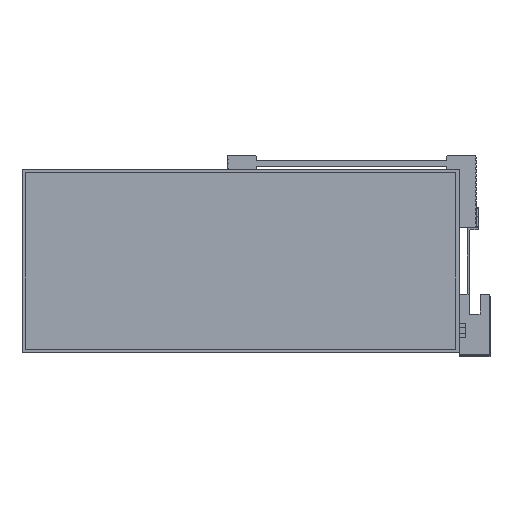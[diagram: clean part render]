
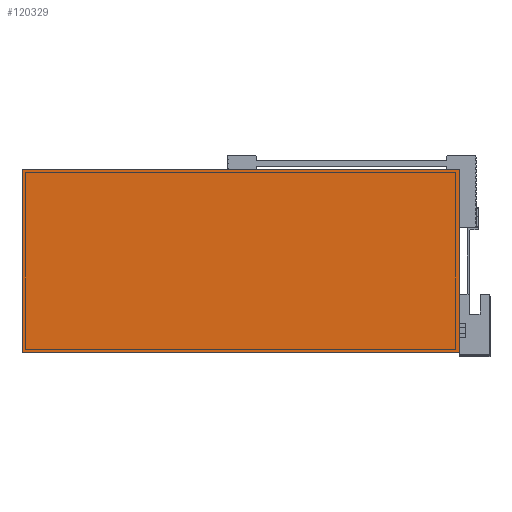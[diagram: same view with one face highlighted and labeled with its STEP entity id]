
A CAD part, top view. The second image highlights one B-rep face of the part: STEP entity #120329.
In plain terms, the highlighted planar face has unit normal (0, 0, 1) as drawn and (0, -1, 0) by its records, which use the part's own axes.
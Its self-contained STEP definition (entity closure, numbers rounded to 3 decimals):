
#7475 = AXIS2_PLACEMENT_3D ( 'NONE', #97066, #55808, #130003 ) ;
#10872 = CARTESIAN_POINT ( 'NONE',  ( 96.5, 0., 40.5 ) ) ;
#14503 = LINE ( 'NONE', #10872, #109110 ) ;
#22526 = VECTOR ( 'NONE', #55345, 1000. ) ;
#29187 = DIRECTION ( 'NONE',  ( 0., 0., 1. ) ) ;
#34482 = EDGE_CURVE ( 'NONE', #50302, #54026, #109571, .T. ) ;
#34589 = VERTEX_POINT ( 'NONE', #107515 ) ;
#41124 = CARTESIAN_POINT ( 'NONE',  ( -96.5, 0., 40.5 ) ) ;
#49433 = EDGE_CURVE ( 'NONE', #34589, #127786, #14503, .T. ) ;
#50035 = CARTESIAN_POINT ( 'NONE',  ( -96.5, 0., 40.5 ) ) ;
#50302 = VERTEX_POINT ( 'NONE', #77371 ) ;
#50741 = LINE ( 'NONE', #97501, #22526 ) ;
#54026 = VERTEX_POINT ( 'NONE', #41124 ) ;
#55345 = DIRECTION ( 'NONE',  ( -1., 0., 0. ) ) ;
#55808 = DIRECTION ( 'NONE',  ( 0., -1., 0. ) ) ;
#57325 = CARTESIAN_POINT ( 'NONE',  ( -96.5, 0., 40.5 ) ) ;
#67941 = DIRECTION ( 'NONE',  ( 1., 0., 0. ) ) ;
#77371 = CARTESIAN_POINT ( 'NONE',  ( -96.5, 0., -40.5 ) ) ;
#80939 = FACE_OUTER_BOUND ( 'NONE', #105515, .T. ) ;
#81269 = VECTOR ( 'NONE', #29187, 1000. ) ;
#96299 = ORIENTED_EDGE ( 'NONE', *, *, #49433, .F. ) ;
#97066 = CARTESIAN_POINT ( 'NONE',  ( 0., 0., 0. ) ) ;
#97501 = CARTESIAN_POINT ( 'NONE',  ( -96.5, 0., -40.5 ) ) ;
#98203 = ORIENTED_EDGE ( 'NONE', *, *, #105264, .F. ) ;
#105264 = EDGE_CURVE ( 'NONE', #54026, #34589, #114291, .T. ) ;
#105515 = EDGE_LOOP ( 'NONE', ( #96299, #98203, #135094, #118789 ) ) ;
#106586 = EDGE_CURVE ( 'NONE', #127786, #50302, #50741, .T. ) ;
#107515 = CARTESIAN_POINT ( 'NONE',  ( 96.5, 0., 40.5 ) ) ;
#107623 = VECTOR ( 'NONE', #67941, 1000. ) ;
#109110 = VECTOR ( 'NONE', #128079, 1000. ) ;
#109571 = LINE ( 'NONE', #50035, #81269 ) ;
#114291 = LINE ( 'NONE', #57325, #107623 ) ;
#116555 = CARTESIAN_POINT ( 'NONE',  ( 96.5, 0., -40.5 ) ) ;
#118789 = ORIENTED_EDGE ( 'NONE', *, *, #106586, .F. ) ;
#119355 = PLANE ( 'NONE',  #7475 ) ;
#120329 = ADVANCED_FACE ( 'NONE', ( #80939 ), #119355, .T. ) ;
#127786 = VERTEX_POINT ( 'NONE', #116555 ) ;
#128079 = DIRECTION ( 'NONE',  ( 0., 0., -1. ) ) ;
#130003 = DIRECTION ( 'NONE',  ( 0., 0., -1. ) ) ;
#135094 = ORIENTED_EDGE ( 'NONE', *, *, #34482, .F. ) ;
